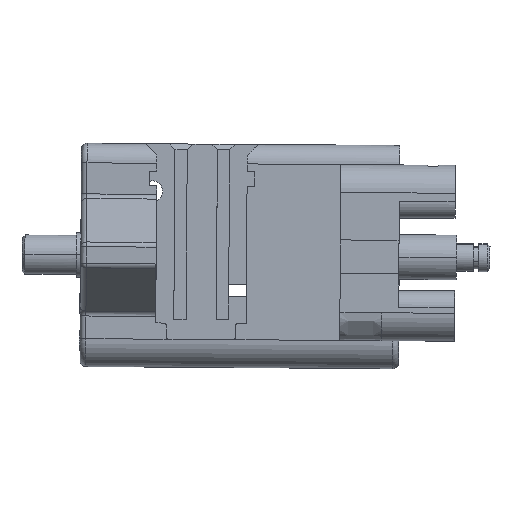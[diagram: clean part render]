
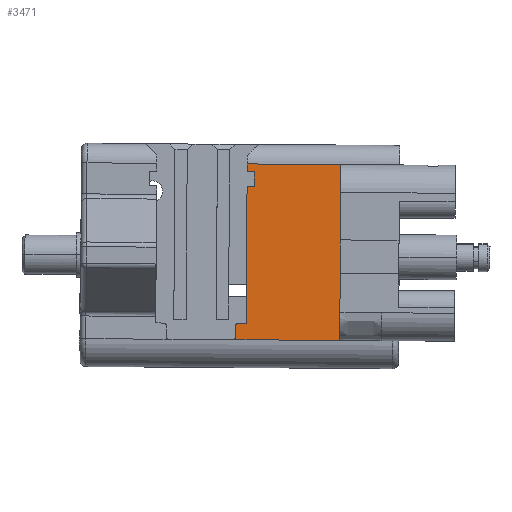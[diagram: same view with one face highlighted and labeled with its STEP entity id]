
A CAD part, front view. The second image highlights one B-rep face of the part: STEP entity #3471.
In plain terms, the highlighted planar face has unit normal (-0.001, -1, 0).
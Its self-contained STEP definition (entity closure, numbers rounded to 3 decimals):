
#1270=CARTESIAN_POINT('Vertex',(-169.205,-936.413,291.548)) ;
#1306=CARTESIAN_POINT('Line Origine',(-169.318,-936.415,275.049)) ;
#1310=CARTESIAN_POINT('Vertex',(-169.421,-936.416,260.049)) ;
#2493=CARTESIAN_POINT('Vertex',(-186.005,-936.395,291.664)) ;
#2496=CARTESIAN_POINT('Line Origine',(-170.055,-936.412,291.554)) ;
#2638=CARTESIAN_POINT('Axis2P3D Location',(-182.455,-936.401,255.138)) ;
#3373=CARTESIAN_POINT('Line Origine',(-186.009,-936.395,290.964)) ;
#3377=CARTESIAN_POINT('Vertex',(-186.014,-936.395,290.264)) ;
#3380=CARTESIAN_POINT('Line Origine',(-185.364,-936.395,290.259)) ;
#3384=CARTESIAN_POINT('Vertex',(-184.714,-936.396,290.255)) ;
#3387=CARTESIAN_POINT('Line Origine',(-184.723,-936.396,288.955)) ;
#3391=CARTESIAN_POINT('Vertex',(-184.732,-936.396,287.655)) ;
#3394=CARTESIAN_POINT('Line Origine',(-185.382,-936.396,287.659)) ;
#3398=CARTESIAN_POINT('Vertex',(-186.032,-936.395,287.664)) ;
#3401=CARTESIAN_POINT('Line Origine',(-186.116,-936.396,275.364)) ;
#3405=CARTESIAN_POINT('Vertex',(-186.2,-936.397,263.064)) ;
#3408=CARTESIAN_POINT('Line Origine',(-186.9,-936.396,263.069)) ;
#3412=CARTESIAN_POINT('Vertex',(-187.6,-936.395,263.074)) ;
#3415=CARTESIAN_POINT('Axis2P3D Location',(-187.604,-936.395,262.574)) ;
#3419=CARTESIAN_POINT('Vertex',(-188.104,-936.395,262.577)) ;
#3422=CARTESIAN_POINT('Line Origine',(-188.11,-936.395,261.627)) ;
#3426=CARTESIAN_POINT('Vertex',(-188.117,-936.395,260.677)) ;
#3429=CARTESIAN_POINT('Axis2P3D Location',(-188.617,-936.394,260.681)) ;
#3433=CARTESIAN_POINT('Vertex',(-188.62,-936.394,260.181)) ;
#3436=CARTESIAN_POINT('Line Origine',(-188.37,-936.394,260.179)) ;
#3440=CARTESIAN_POINT('Vertex',(-188.12,-936.395,260.177)) ;
#3443=CARTESIAN_POINT('Line Origine',(-187.17,-936.396,260.171)) ;
#3447=CARTESIAN_POINT('Vertex',(-186.22,-936.397,260.164)) ;
#3450=CARTESIAN_POINT('Line Origine',(-177.821,-936.406,260.107)) ;
#1307=DIRECTION('Vector Direction',(-0.007,0.,-1.)) ;
#2497=DIRECTION('Vector Direction',(1.,-0.001,-0.007)) ;
#2639=DIRECTION('Axis2P3D Direction',(-0.001,-1.,0.)) ;
#2640=DIRECTION('Axis2P3D XDirection',(0.007,0.,1.)) ;
#3374=DIRECTION('Vector Direction',(0.007,0.,1.)) ;
#3381=DIRECTION('Vector Direction',(1.,-0.001,-0.007)) ;
#3388=DIRECTION('Vector Direction',(0.007,0.,1.)) ;
#3395=DIRECTION('Vector Direction',(-1.,0.001,0.007)) ;
#3402=DIRECTION('Vector Direction',(0.007,0.,1.)) ;
#3409=DIRECTION('Vector Direction',(-1.,0.001,0.007)) ;
#3416=DIRECTION('Axis2P3D Direction',(-0.001,-1.,0.)) ;
#3423=DIRECTION('Vector Direction',(0.007,0.,1.)) ;
#3430=DIRECTION('Axis2P3D Direction',(-0.001,-1.,0.)) ;
#3437=DIRECTION('Vector Direction',(-1.,0.001,0.007)) ;
#3444=DIRECTION('Vector Direction',(-1.,0.001,0.007)) ;
#3451=DIRECTION('Vector Direction',(-1.,0.001,0.007)) ;
#2641=AXIS2_PLACEMENT_3D('Plane Axis2P3D',#2638,#2639,#2640) ;
#3417=AXIS2_PLACEMENT_3D('Circle Axis2P3D',#3415,#3416,$) ;
#3431=AXIS2_PLACEMENT_3D('Circle Axis2P3D',#3429,#3430,$) ;
#3456=ORIENTED_EDGE('',*,*,#1312,.F.) ;
#3457=ORIENTED_EDGE('',*,*,#2500,.F.) ;
#3458=ORIENTED_EDGE('',*,*,#3379,.F.) ;
#3459=ORIENTED_EDGE('',*,*,#3386,.F.) ;
#3460=ORIENTED_EDGE('',*,*,#3393,.F.) ;
#3461=ORIENTED_EDGE('',*,*,#3400,.F.) ;
#3462=ORIENTED_EDGE('',*,*,#3407,.F.) ;
#3463=ORIENTED_EDGE('',*,*,#3414,.F.) ;
#3464=ORIENTED_EDGE('',*,*,#3421,.F.) ;
#3465=ORIENTED_EDGE('',*,*,#3428,.F.) ;
#3466=ORIENTED_EDGE('',*,*,#3435,.T.) ;
#3467=ORIENTED_EDGE('',*,*,#3442,.F.) ;
#3468=ORIENTED_EDGE('',*,*,#3449,.F.) ;
#3469=ORIENTED_EDGE('',*,*,#3454,.F.) ;
#1308=VECTOR('Line Direction',#1307,1.) ;
#2498=VECTOR('Line Direction',#2497,1.) ;
#3375=VECTOR('Line Direction',#3374,1.) ;
#3382=VECTOR('Line Direction',#3381,1.) ;
#3389=VECTOR('Line Direction',#3388,1.) ;
#3396=VECTOR('Line Direction',#3395,1.) ;
#3403=VECTOR('Line Direction',#3402,1.) ;
#3410=VECTOR('Line Direction',#3409,1.) ;
#3424=VECTOR('Line Direction',#3423,1.) ;
#3438=VECTOR('Line Direction',#3437,1.) ;
#3445=VECTOR('Line Direction',#3444,1.) ;
#3452=VECTOR('Line Direction',#3451,1.) ;
#3471=ADVANCED_FACE('\X2\96F64EF651E04F554F53\X0\',(#3470),#2642,.T.) ;
#3418=CIRCLE('generated circle',#3417,0.5) ;
#3432=CIRCLE('generated circle',#3431,0.5) ;
#1312=EDGE_CURVE('',#1271,#1311,#1309,.T.) ;
#2500=EDGE_CURVE('',#2494,#1271,#2499,.T.) ;
#3379=EDGE_CURVE('',#3378,#2494,#3376,.T.) ;
#3386=EDGE_CURVE('',#3385,#3378,#3383,.F.) ;
#3393=EDGE_CURVE('',#3392,#3385,#3390,.T.) ;
#3400=EDGE_CURVE('',#3399,#3392,#3397,.F.) ;
#3407=EDGE_CURVE('',#3406,#3399,#3404,.T.) ;
#3414=EDGE_CURVE('',#3413,#3406,#3411,.F.) ;
#3421=EDGE_CURVE('',#3420,#3413,#3418,.F.) ;
#3428=EDGE_CURVE('',#3427,#3420,#3425,.T.) ;
#3435=EDGE_CURVE('',#3427,#3434,#3432,.F.) ;
#3442=EDGE_CURVE('',#3441,#3434,#3439,.T.) ;
#3449=EDGE_CURVE('',#3448,#3441,#3446,.T.) ;
#3454=EDGE_CURVE('',#1311,#3448,#3453,.T.) ;
#3455=EDGE_LOOP('',(#3456,#3457,#3458,#3459,#3460,#3461,#3462,#3463,#3464,#3465,#3466,#3467,#3468,#3469)) ;
#3470=FACE_OUTER_BOUND('',#3455,.T.) ;
#1309=LINE('Line',#1306,#1308) ;
#2499=LINE('Line',#2496,#2498) ;
#3376=LINE('Line',#3373,#3375) ;
#3383=LINE('Line',#3380,#3382) ;
#3390=LINE('Line',#3387,#3389) ;
#3397=LINE('Line',#3394,#3396) ;
#3404=LINE('Line',#3401,#3403) ;
#3411=LINE('Line',#3408,#3410) ;
#3425=LINE('Line',#3422,#3424) ;
#3439=LINE('Line',#3436,#3438) ;
#3446=LINE('Line',#3443,#3445) ;
#3453=LINE('Line',#3450,#3452) ;
#2642=PLANE('',#2641) ;
#1271=VERTEX_POINT('',#1270) ;
#1311=VERTEX_POINT('',#1310) ;
#2494=VERTEX_POINT('',#2493) ;
#3378=VERTEX_POINT('',#3377) ;
#3385=VERTEX_POINT('',#3384) ;
#3392=VERTEX_POINT('',#3391) ;
#3399=VERTEX_POINT('',#3398) ;
#3406=VERTEX_POINT('',#3405) ;
#3413=VERTEX_POINT('',#3412) ;
#3420=VERTEX_POINT('',#3419) ;
#3427=VERTEX_POINT('',#3426) ;
#3434=VERTEX_POINT('',#3433) ;
#3441=VERTEX_POINT('',#3440) ;
#3448=VERTEX_POINT('',#3447) ;
